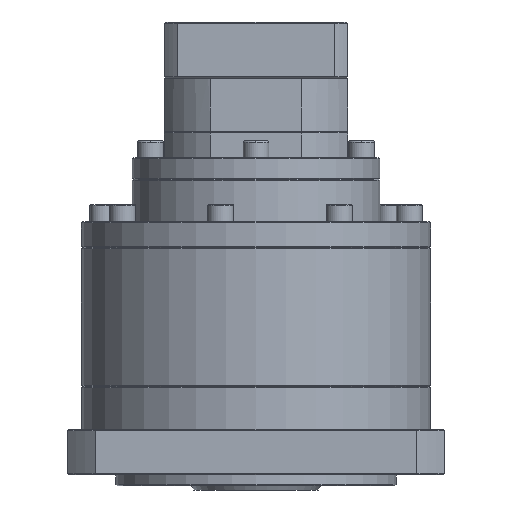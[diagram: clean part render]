
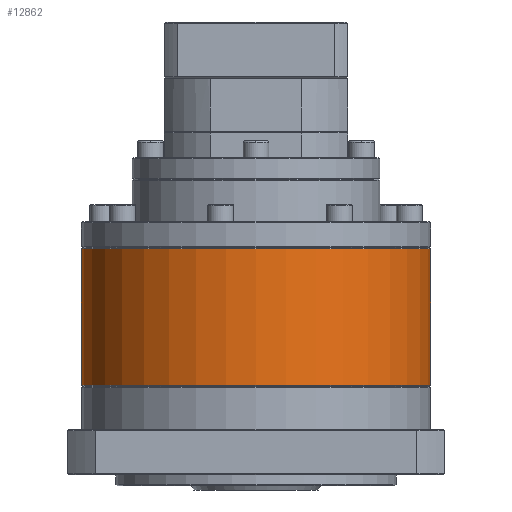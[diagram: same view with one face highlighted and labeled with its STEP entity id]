
A CAD part, front view. The second image highlights one B-rep face of the part: STEP entity #12862.
In plain terms, the highlighted cylindrical face has radius 81 mm (diameter 162 mm), a partial arc.
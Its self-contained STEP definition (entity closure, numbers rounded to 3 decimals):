
#2018 = ORIENTED_EDGE ( 'NONE', *, *, #25610, .F. ) ;
#5169 = VERTEX_POINT ( 'NONE', #42695 ) ;
#5707 = DIRECTION ( 'NONE',  ( -1., 0., 0. ) ) ;
#6160 = EDGE_CURVE ( 'NONE', #57993, #63945, #91977, .T. ) ;
#6340 = DIRECTION ( 'NONE',  ( -1., 0., 0. ) ) ;
#11631 = CIRCLE ( 'NONE', #21815, 81. ) ;
#12862 = ADVANCED_FACE ( 'NONE', ( #58549 ), #85411, .T. ) ;
#13877 = CARTESIAN_POINT ( 'NONE',  ( -9.772, 31.792, -75.952 ) ) ;
#18773 = VECTOR ( 'NONE', #37303, 1000. ) ;
#21608 = VECTOR ( 'NONE', #66972, 1000. ) ;
#21673 = DIRECTION ( 'NONE',  ( 0., 0., -1. ) ) ;
#21815 = AXIS2_PLACEMENT_3D ( 'NONE', #44210, #21673, #5707 ) ;
#22364 = CARTESIAN_POINT ( 'NONE',  ( -90.772, 31.792, -75.952 ) ) ;
#25610 = EDGE_CURVE ( 'NONE', #57993, #5169, #83242, .T. ) ;
#27785 = CARTESIAN_POINT ( 'NONE',  ( -90.772, -49.208, -76.452 ) ) ;
#28100 = CARTESIAN_POINT ( 'NONE',  ( -90.772, 31.792, -76.452 ) ) ;
#28749 = DIRECTION ( 'NONE',  ( 0., 0., -1. ) ) ;
#30354 = AXIS2_PLACEMENT_3D ( 'NONE', #28100, #28749, #73860 ) ;
#37303 = DIRECTION ( 'NONE',  ( 0., 0., -1. ) ) ;
#41563 = EDGE_CURVE ( 'NONE', #58470, #98366, #87531, .T. ) ;
#42695 = CARTESIAN_POINT ( 'NONE',  ( -9.772, 31.792, -139.952 ) ) ;
#44210 = CARTESIAN_POINT ( 'NONE',  ( -90.772, 31.792, -76.452 ) ) ;
#51892 = DIRECTION ( 'NONE',  ( 0., 0., -1. ) ) ;
#54114 = ORIENTED_EDGE ( 'NONE', *, *, #63035, .T. ) ;
#55324 = AXIS2_PLACEMENT_3D ( 'NONE', #97819, #60172, #6340 ) ;
#57993 = VERTEX_POINT ( 'NONE', #64035 ) ;
#58470 = VERTEX_POINT ( 'NONE', #67349 ) ;
#58549 = FACE_OUTER_BOUND ( 'NONE', #70240, .T. ) ;
#60172 = DIRECTION ( 'NONE',  ( 0., 0., 1. ) ) ;
#63035 = EDGE_CURVE ( 'NONE', #98366, #5169, #91424, .T. ) ;
#63945 = VERTEX_POINT ( 'NONE', #27785 ) ;
#64035 = CARTESIAN_POINT ( 'NONE',  ( -9.772, 31.792, -76.452 ) ) ;
#66972 = DIRECTION ( 'NONE',  ( 0., 0., -1. ) ) ;
#67349 = CARTESIAN_POINT ( 'NONE',  ( -171.772, 31.792, -76.452 ) ) ;
#68712 = ORIENTED_EDGE ( 'NONE', *, *, #96641, .T. ) ;
#70240 = EDGE_LOOP ( 'NONE', ( #2018, #84135, #68712, #77352, #54114 ) ) ;
#73860 = DIRECTION ( 'NONE',  ( -1., 0., 0. ) ) ;
#75127 = CARTESIAN_POINT ( 'NONE',  ( -171.772, 31.792, -75.952 ) ) ;
#77052 = DIRECTION ( 'NONE',  ( -1., 0., 0. ) ) ;
#77352 = ORIENTED_EDGE ( 'NONE', *, *, #41563, .T. ) ;
#83242 = LINE ( 'NONE', #13877, #21608 ) ;
#84135 = ORIENTED_EDGE ( 'NONE', *, *, #6160, .T. ) ;
#85411 = CYLINDRICAL_SURFACE ( 'NONE', #88273, 81. ) ;
#87531 = LINE ( 'NONE', #75127, #18773 ) ;
#88273 = AXIS2_PLACEMENT_3D ( 'NONE', #22364, #51892, #77052 ) ;
#91424 = CIRCLE ( 'NONE', #55324, 81. ) ;
#91732 = CARTESIAN_POINT ( 'NONE',  ( -171.772, 31.792, -139.952 ) ) ;
#91977 = CIRCLE ( 'NONE', #30354, 81. ) ;
#96641 = EDGE_CURVE ( 'NONE', #63945, #58470, #11631, .T. ) ;
#97819 = CARTESIAN_POINT ( 'NONE',  ( -90.772, 31.792, -139.952 ) ) ;
#98366 = VERTEX_POINT ( 'NONE', #91732 ) ;
